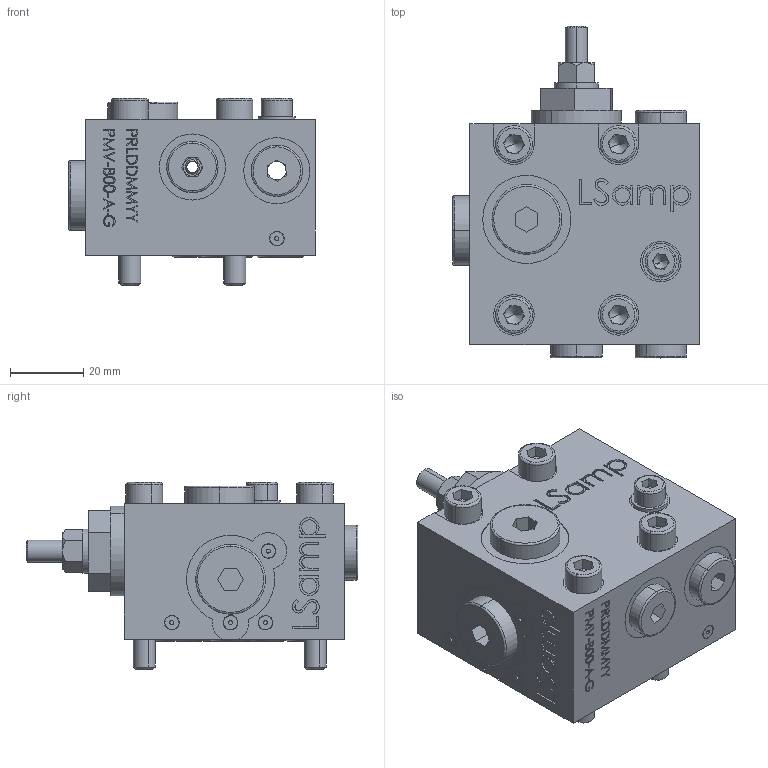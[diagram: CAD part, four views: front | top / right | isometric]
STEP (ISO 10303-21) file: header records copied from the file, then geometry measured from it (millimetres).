
FILE_DESCRIPTION (( 'STEP AP214' ), '1' );
FILE_NAME ('800.0514.STEP', '2023-10-26T14:44:31', ( '' ), ( '' ), 'SwSTEP 2.0', 'SolidWorks 2022', '' );
FILE_SCHEMA (( 'AUTOMOTIVE_DESIGN' ));
Length unit declared in the file: millimetre
Products named in the file (1): 800.0514
Bounding box: 67.2 x 90.4 x 51 mm (x, y, z)
Surface area: 28343.9 mm2 (no closed solid volume)
Topology: 0 solids, 37 shells, 783 faces, 2168 edges, 1427 vertices
Faces by surface type: plane 396, bspline 164, cylinder 151, torus 42, cone 30
Entity records: 42563 total; most frequent: CARTESIAN_POINT 14871, ORIENTED_EDGE 3915, DIRECTION 3594, EDGE_CURVE 2158, VERTEX_POINT 1427, VECTOR 1258, LINE 1258, AXIS2_PLACEMENT_3D 1168
